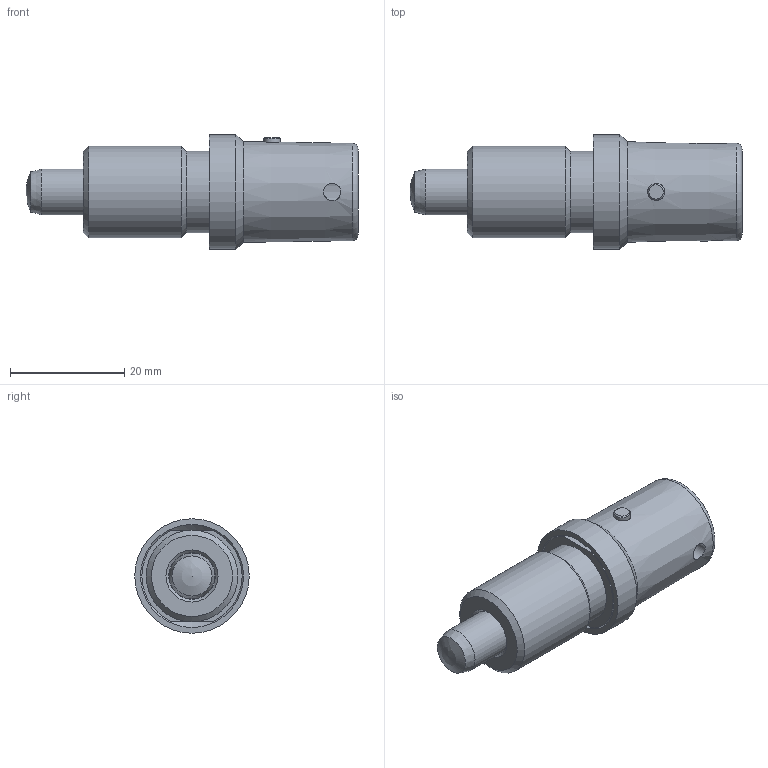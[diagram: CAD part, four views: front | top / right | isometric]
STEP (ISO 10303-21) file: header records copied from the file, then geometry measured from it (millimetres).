
FILE_DESCRIPTION( ( 'STEP AP203' ), '1' );
FILE_NAME( 'C:/Temp/Ganter_Step_05_03_2020/data/3_1/gn816_1/gn_816_1_b/Locking plunger GN 816.1-8-M16x1,5-B (activated).stp', '2020-03-12T08:56:19', ( 'License CC BY-ND 4.0' ), ( 'CADENAS' ), ' ', 'PARTsolutions', ' ' );
FILE_SCHEMA( ( 'CONFIG_CONTROL_DESIGN' ) );
Length unit declared in the file: millimetre
Products named in the file (3): Locking plunger GN 816.1-8-M16x1,5-B (activated); _GN 816.1-8-M16x1,5-B(1)-b2; _GN 816.1-8-M16x1,5-Bb1
Assembly tree (2 placements, depth 2):
  Locking plunger GN 816.1-8-M16x1,5-B (activated)
    _GN 816.1-8-M16x1,5-B(1)-b2
    _GN 816.1-8-M16x1,5-Bb1
Bounding box: 58 x 20 x 20 mm (x, y, z)
Volume: 8846.3 mm3; surface area: 6559.4 mm2
Topology: 2 solids, 2 shells, 43 faces, 85 edges, 52 vertices
Faces by surface type: cylinder 15, cone 13, plane 12, torus 2, sphere 1
Full cylindrical faces by diameter (mm): 2.9 x2, 3 x2, 7 x1, 8 x1, 8.1 x1, 11 x1, 11.1 x1, 14.2 x1, 16 x1, 18 x1, 20 x1
Entity records: 1348 total; most frequent: CARTESIAN_POINT 471, DIRECTION 172, ORIENTED_EDGE 102, EDGE_LOOP 84, AXIS2_PLACEMENT_3D 83, FACE_OUTER_BOUND 58, EDGE_CURVE 51, VERTEX_POINT 48
